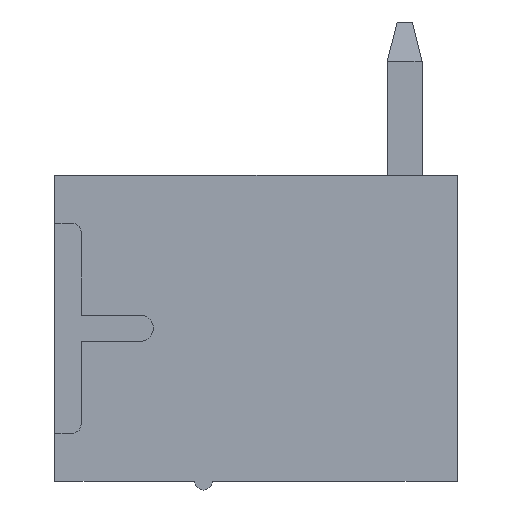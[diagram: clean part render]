
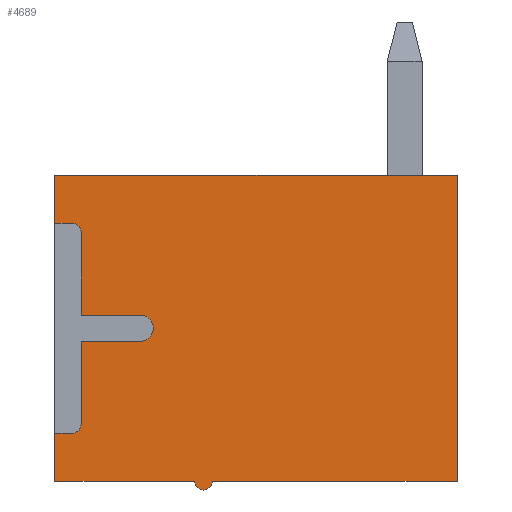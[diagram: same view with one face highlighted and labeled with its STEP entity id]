
A CAD part, left-side view. The second image highlights one B-rep face of the part: STEP entity #4689.
In plain terms, the highlighted planar face has unit normal (-1, 0, 0).
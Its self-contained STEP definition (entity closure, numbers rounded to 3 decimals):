
#490=DIRECTION('',(0.,0.,-1.));
#491=VECTOR('',#490,1.1);
#492=CARTESIAN_POINT('',(15.2,9.2,2.8));
#493=LINE('',#492,#491);
#502=DIRECTION('',(0.,0.,-1.));
#503=VECTOR('',#502,1.1);
#504=CARTESIAN_POINT('',(15.2,9.2,-3.1));
#505=LINE('',#504,#503);
#565=DIRECTION('',(0.,1.,0.));
#566=VECTOR('',#565,9.2);
#567=CARTESIAN_POINT('',(15.2,0.,2.8));
#568=LINE('',#567,#566);
#601=DIRECTION('',(0.,-1.,0.));
#602=VECTOR('',#601,3.2);
#603=CARTESIAN_POINT('',(15.2,9.2,-4.2));
#604=LINE('',#603,#602);
#609=CARTESIAN_POINT('',(15.2,8.8,1.5));
#610=DIRECTION('',(-1.,0.,0.));
#611=DIRECTION('',(0.,-1.,0.));
#612=AXIS2_PLACEMENT_3D('',#609,#610,#611);
#614=DIRECTION('',(0.,0.,-1.));
#615=VECTOR('',#614,7.);
#616=CARTESIAN_POINT('',(15.2,0.,2.8));
#617=LINE('',#616,#615);
#618=DIRECTION('',(0.,1.,0.));
#619=VECTOR('',#618,5.6);
#620=CARTESIAN_POINT('',(15.2,0.,-4.2));
#621=LINE('',#620,#619);
#622=CARTESIAN_POINT('',(15.2,5.8,-4.2));
#623=DIRECTION('',(1.,0.,0.));
#624=DIRECTION('',(0.,-1.,0.));
#625=AXIS2_PLACEMENT_3D('',#622,#623,#624);
#627=CARTESIAN_POINT('',(15.2,8.8,-2.9));
#628=DIRECTION('',(-1.,0.,0.));
#629=DIRECTION('',(0.,0.,-1.));
#630=AXIS2_PLACEMENT_3D('',#627,#628,#629);
#632=CARTESIAN_POINT('',(15.2,7.25,-0.7));
#633=DIRECTION('',(-1.,0.,0.));
#634=DIRECTION('',(0.,0.,-1.));
#635=AXIS2_PLACEMENT_3D('',#632,#633,#634);
#645=DIRECTION('',(0.,-1.,0.));
#646=VECTOR('',#645,0.4);
#647=CARTESIAN_POINT('',(15.2,9.2,1.7));
#648=LINE('',#647,#646);
#692=DIRECTION('',(0.,1.,0.));
#693=VECTOR('',#692,0.4);
#694=CARTESIAN_POINT('',(15.2,8.8,-3.1));
#695=LINE('',#694,#693);
#708=DIRECTION('',(0.,0.,-1.));
#709=VECTOR('',#708,1.9);
#710=CARTESIAN_POINT('',(15.2,8.6,-1.));
#711=LINE('',#710,#709);
#712=DIRECTION('',(0.,1.,0.));
#713=VECTOR('',#712,1.35);
#714=CARTESIAN_POINT('',(15.2,7.25,-1.));
#715=LINE('',#714,#713);
#728=DIRECTION('',(0.,-1.,0.));
#729=VECTOR('',#728,1.35);
#730=CARTESIAN_POINT('',(15.2,8.6,-0.4));
#731=LINE('',#730,#729);
#732=DIRECTION('',(0.,0.,-1.));
#733=VECTOR('',#732,1.9);
#734=CARTESIAN_POINT('',(15.2,8.6,1.5));
#735=LINE('',#734,#733);
#3656=CARTESIAN_POINT('',(15.2,9.2,2.8));
#3657=VERTEX_POINT('',#3656);
#3658=CARTESIAN_POINT('',(15.2,9.2,1.7));
#3659=VERTEX_POINT('',#3658);
#3660=CARTESIAN_POINT('',(15.2,9.2,-3.1));
#3661=CARTESIAN_POINT('',(15.2,9.2,-4.2));
#3662=VERTEX_POINT('',#3660);
#3663=VERTEX_POINT('',#3661);
#3664=CARTESIAN_POINT('',(15.2,0.,2.8));
#3665=VERTEX_POINT('',#3664);
#3666=CARTESIAN_POINT('',(15.2,0.,-4.2));
#3667=VERTEX_POINT('',#3666);
#3668=CARTESIAN_POINT('',(15.2,5.6,-4.2));
#3669=VERTEX_POINT('',#3668);
#3670=CARTESIAN_POINT('',(15.2,6.,-4.2));
#3671=VERTEX_POINT('',#3670);
#3672=CARTESIAN_POINT('',(15.2,8.6,1.5));
#3673=CARTESIAN_POINT('',(15.2,8.8,1.7));
#3674=VERTEX_POINT('',#3672);
#3675=VERTEX_POINT('',#3673);
#3676=CARTESIAN_POINT('',(15.2,8.8,-3.1));
#3677=VERTEX_POINT('',#3676);
#3678=CARTESIAN_POINT('',(15.2,8.6,-2.9));
#3679=VERTEX_POINT('',#3678);
#3680=CARTESIAN_POINT('',(15.2,8.6,-1.));
#3681=VERTEX_POINT('',#3680);
#3682=CARTESIAN_POINT('',(15.2,7.25,-1.));
#3683=VERTEX_POINT('',#3682);
#3684=CARTESIAN_POINT('',(15.2,7.25,-0.4));
#3685=VERTEX_POINT('',#3684);
#3686=CARTESIAN_POINT('',(15.2,8.6,-0.4));
#3687=VERTEX_POINT('',#3686);
#4657=CARTESIAN_POINT('',(15.2,4.6,-0.8));
#4658=DIRECTION('',(1.,0.,0.));
#4659=DIRECTION('',(0.,1.,0.));
#4660=AXIS2_PLACEMENT_3D('',#4657,#4658,#4659);
#4661=PLANE('',#4660);
#4663=ORIENTED_EDGE('',*,*,#4662,.T.);
#4665=ORIENTED_EDGE('',*,*,#4664,.F.);
#4666=ORIENTED_EDGE('',*,*,#4397,.F.);
#4667=ORIENTED_EDGE('',*,*,#4537,.F.);
#4668=ORIENTED_EDGE('',*,*,#4584,.T.);
#4669=ORIENTED_EDGE('',*,*,#4620,.T.);
#4670=ORIENTED_EDGE('',*,*,#4635,.T.);
#4671=ORIENTED_EDGE('',*,*,#4649,.F.);
#4672=ORIENTED_EDGE('',*,*,#4405,.F.);
#4674=ORIENTED_EDGE('',*,*,#4673,.F.);
#4676=ORIENTED_EDGE('',*,*,#4675,.T.);
#4678=ORIENTED_EDGE('',*,*,#4677,.F.);
#4680=ORIENTED_EDGE('',*,*,#4679,.F.);
#4682=ORIENTED_EDGE('',*,*,#4681,.T.);
#4684=ORIENTED_EDGE('',*,*,#4683,.F.);
#4686=ORIENTED_EDGE('',*,*,#4685,.F.);
#4687=EDGE_LOOP('',(#4663,#4665,#4666,#4667,#4668,#4669,#4670,#4671,#4672,#4674,
#4676,#4678,#4680,#4682,#4684,#4686));
#4688=FACE_OUTER_BOUND('',#4687,.F.);
#4689=ADVANCED_FACE('',(#4688),#4661,.F.);
#613=CIRCLE('',#612,0.2);
#626=CIRCLE('',#625,0.2);
#631=CIRCLE('',#630,0.2);
#636=CIRCLE('',#635,0.3);
#4397=EDGE_CURVE('',#3657,#3659,#493,.T.);
#4405=EDGE_CURVE('',#3662,#3663,#505,.T.);
#4537=EDGE_CURVE('',#3665,#3657,#568,.T.);
#4584=EDGE_CURVE('',#3665,#3667,#617,.T.);
#4620=EDGE_CURVE('',#3667,#3669,#621,.T.);
#4635=EDGE_CURVE('',#3669,#3671,#626,.T.);
#4649=EDGE_CURVE('',#3663,#3671,#604,.T.);
#4662=EDGE_CURVE('',#3674,#3675,#613,.T.);
#4664=EDGE_CURVE('',#3659,#3675,#648,.T.);
#4673=EDGE_CURVE('',#3677,#3662,#695,.T.);
#4675=EDGE_CURVE('',#3677,#3679,#631,.T.);
#4677=EDGE_CURVE('',#3681,#3679,#711,.T.);
#4679=EDGE_CURVE('',#3683,#3681,#715,.T.);
#4681=EDGE_CURVE('',#3683,#3685,#636,.T.);
#4683=EDGE_CURVE('',#3687,#3685,#731,.T.);
#4685=EDGE_CURVE('',#3674,#3687,#735,.T.);
